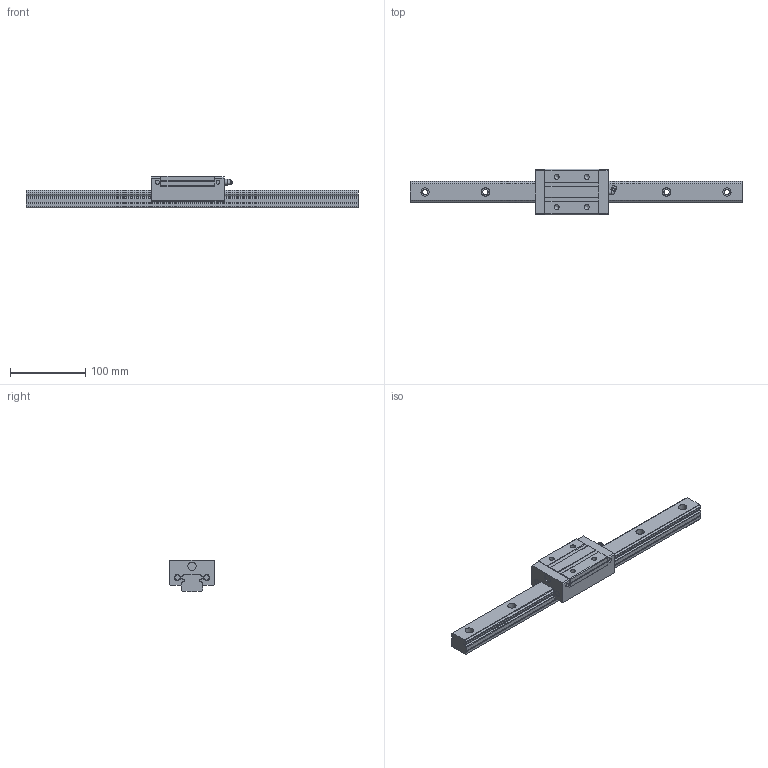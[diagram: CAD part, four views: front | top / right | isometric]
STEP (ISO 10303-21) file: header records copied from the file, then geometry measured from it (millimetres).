
FILE_DESCRIPTION((''),'2;1');
FILE_NAME('D:\製品 (図面)\カタログ用3D\リニアガイド関連\STEP形式\LGSR\LGSR30.stp','2010-06-02T16:01:59',('Tsuchiya'),(''),'Autodesk Inventor 10','Autodesk Inventor 10','');
FILE_SCHEMA(('AUTOMOTIVE_DESIGN { 1 0 10303 214 1 1 1 1 }'));
Length unit declared in the file: millimetre
Products named in the file (3): LGSR30; LGSR301; LGSR302
Assembly tree (2 placements, depth 2):
  LGSR30
    LGSR301
    LGSR302
Bounding box: 440 x 60 x 42 mm (x, y, z)
Volume: 407861.3 mm3; surface area: 79374 mm2
Topology: 2 solids, 2 shells, 181 faces, 467 edges, 308 vertices
Faces by surface type: plane 93, cylinder 45, bspline 36, cone 4, sphere 3
Full cylindrical faces by diameter (mm): 5.2 x2, 6.647 x2, 7 x3, 7.7 x1, 8 x2, 11 x1
Entity records: 5776 total; most frequent: CARTESIAN_POINT 1507, DIRECTION 848, ORIENTED_EDGE 824, EDGE_CURVE 412, VERTEX_POINT 298, AXIS2_PLACEMENT_3D 290, VECTOR 268, LINE 268
